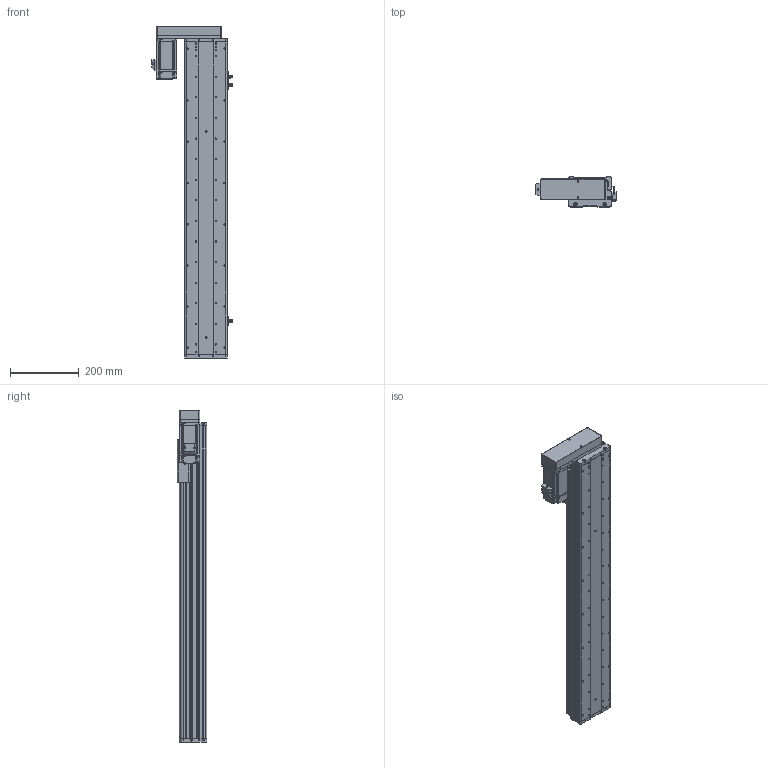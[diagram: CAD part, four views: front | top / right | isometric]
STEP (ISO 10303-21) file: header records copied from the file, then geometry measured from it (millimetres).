
FILE_DESCRIPTION (( 'STEP AP214' ), '1' );
FILE_NAME ('KSD125S-S700-ML-CM.STEP', '2017-10-21T08:37:26', ( '微软用户' ), ( '微软中国' ), 'SwSTEP 2.0', 'SolidWorks 2014', '' );
FILE_SCHEMA (( 'AUTOMOTIVE_DESIGN' ));
Length unit declared in the file: millimetre
Products named in the file (16): 覜茼え68遵圉猾敕; U倰嫖萇EEㄜSX672; HTPA30S3M150_A_H6_a佪裝蚚; HTPA30S3M150_A_H6_a萇儂蚚; 125宽马达安装板连板左右折丝杆; 125悵誘欶酘衵殏; KSD125S-700俴最佪裝滅鳥裔; KSD125S-700俴最佪裝菁啣; MHMD042G1CA_2_03; 拸萇儂釱滅袉菜; 拸萇儂釱滅袉菜-1; U倰嫖萇假蚾璃; ヶ傷啣-125遵耀郪; KSD125-賑雄釱1; 125-帣傷啣1; KSD125S-S700-ML-CM
Assembly tree (19 placements, depth 2):
  KSD125S-S700-ML-CM
    125-帣傷啣1
    KSD125-賑雄釱1
    ヶ傷啣-125遵耀郪
    U倰嫖萇假蚾璃  x3
    拸萇儂釱滅袉菜-1
    拸萇儂釱滅袉菜
    MHMD042G1CA_2_03
    KSD125S-700俴最佪裝菁啣
    KSD125S-700俴最佪裝滅鳥裔
    125悵誘欶酘衵殏
    125宽马达安装板连板左右折丝杆
    HTPA30S3M150_A_H6_a萇儂蚚
    HTPA30S3M150_A_H6_a佪裝蚚
    U倰嫖萇EEㄜSX672  x3
    覜茼え68遵圉猾敕
Bounding box: 234.2 x 86 x 967.5 mm (x, y, z)
Volume: 3175352.9 mm3; surface area: 1086003.2 mm2
Topology: 18 solids, 21 shells, 2219 faces, 6435 edges, 4245 vertices
Faces by surface type: cylinder 1394, plane 684, cone 119, bspline 22
Entity records: 78353 total; most frequent: CARTESIAN_POINT 15913, DIRECTION 12229, ORIENTED_EDGE 11378, EDGE_CURVE 5767, AXIS2_PLACEMENT_3D 4731, VERTEX_POINT 3837, LINE 2767, VECTOR 2767
